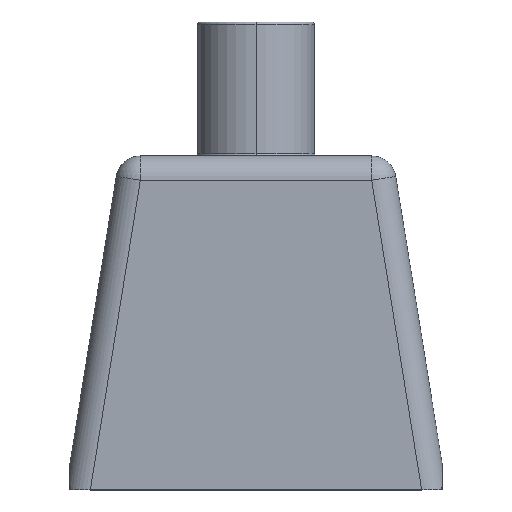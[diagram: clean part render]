
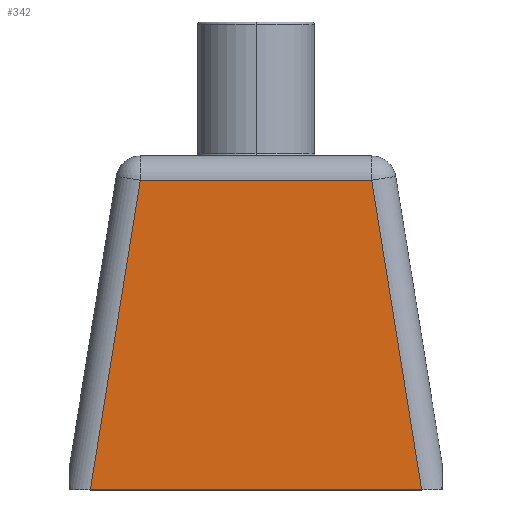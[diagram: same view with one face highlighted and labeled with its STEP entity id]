
A CAD part, top view. The second image highlights one B-rep face of the part: STEP entity #342.
In plain terms, the highlighted planar face has unit normal (0, 0, 1).
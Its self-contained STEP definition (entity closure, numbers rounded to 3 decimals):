
#35 = CARTESIAN_POINT ( 'NONE',  ( 4.748, 12.7, 3.9 ) ) ;
#54 = ORIENTED_EDGE ( 'NONE', *, *, #235, .T. ) ;
#113 = ORIENTED_EDGE ( 'NONE', *, *, #1938, .T. ) ;
#138 = VERTEX_POINT ( 'NONE', #460 ) ;
#235 = EDGE_CURVE ( 'NONE', #138, #972, #1300, .T. ) ;
#261 = CARTESIAN_POINT ( 'NONE',  ( 7.65, 12.7, 3.9 ) ) ;
#342 = ADVANCED_FACE ( 'NONE', ( #1354 ), #717, .F. ) ;
#356 = VERTEX_POINT ( 'NONE', #1028 ) ;
#361 = EDGE_LOOP ( 'NONE', ( #113, #1446, #54, #1312 ) ) ;
#373 = CARTESIAN_POINT ( 'NONE',  ( -6.798, 0., 3.9 ) ) ;
#460 = CARTESIAN_POINT ( 'NONE',  ( -4.748, 12.7, 3.9 ) ) ;
#469 = VECTOR ( 'NONE', #1245, 1000. ) ;
#603 = DIRECTION ( 'NONE',  ( -1., 0., 0. ) ) ;
#672 = AXIS2_PLACEMENT_3D ( 'NONE', #1033, #1822, #603 ) ;
#717 = PLANE ( 'NONE',  #672 ) ;
#820 = VERTEX_POINT ( 'NONE', #35 ) ;
#830 = VECTOR ( 'NONE', #1800, 1000. ) ;
#897 = CARTESIAN_POINT ( 'NONE',  ( 7.65, 0., 3.9 ) ) ;
#920 = DIRECTION ( 'NONE',  ( 1., 0., 0. ) ) ;
#960 = DIRECTION ( 'NONE',  ( -0.159, -0.987, 0. ) ) ;
#972 = VERTEX_POINT ( 'NONE', #373 ) ;
#1028 = CARTESIAN_POINT ( 'NONE',  ( 6.798, 0., 3.9 ) ) ;
#1033 = CARTESIAN_POINT ( 'NONE',  ( 7.65, 0., 3.9 ) ) ;
#1115 = EDGE_CURVE ( 'NONE', #820, #138, #1644, .T. ) ;
#1143 = VECTOR ( 'NONE', #960, 1000. ) ;
#1155 = LINE ( 'NONE', #1734, #469 ) ;
#1245 = DIRECTION ( 'NONE',  ( -0.159, 0.987, 0. ) ) ;
#1249 = EDGE_CURVE ( 'NONE', #972, #356, #1793, .T. ) ;
#1300 = LINE ( 'NONE', #1937, #1143 ) ;
#1312 = ORIENTED_EDGE ( 'NONE', *, *, #1249, .T. ) ;
#1354 = FACE_OUTER_BOUND ( 'NONE', #361, .T. ) ;
#1446 = ORIENTED_EDGE ( 'NONE', *, *, #1115, .T. ) ;
#1644 = LINE ( 'NONE', #261, #830 ) ;
#1694 = VECTOR ( 'NONE', #920, 1000. ) ;
#1734 = CARTESIAN_POINT ( 'NONE',  ( 6.82, -0.134, 3.9 ) ) ;
#1793 = LINE ( 'NONE', #897, #1694 ) ;
#1800 = DIRECTION ( 'NONE',  ( -1., 0., 0. ) ) ;
#1822 = DIRECTION ( 'NONE',  ( 0., 0., -1. ) ) ;
#1937 = CARTESIAN_POINT ( 'NONE',  ( -6.432, 2.273, 3.9 ) ) ;
#1938 = EDGE_CURVE ( 'NONE', #356, #820, #1155, .T. ) ;
